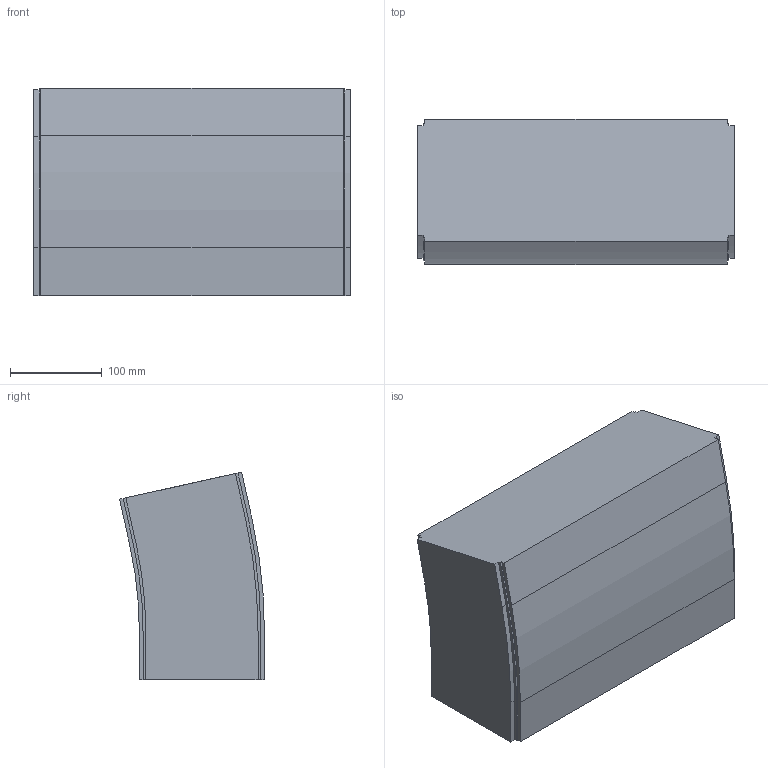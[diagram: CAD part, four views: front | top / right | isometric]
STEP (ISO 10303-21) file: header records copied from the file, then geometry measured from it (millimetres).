
FILE_DESCRIPTION (( 'STEP AP214' ), '1' );
FILE_NAME ('FS-MTC2-150-INOX verticaalbocht.350 12,5°.STEP', '2017-02-08T12:41:59', ( '' ), ( '' ), 'SwSTEP 2.0', 'SolidWorks 2016', '' );
FILE_SCHEMA (( 'AUTOMOTIVE_DESIGN' ));
Length unit declared in the file: millimetre
Products named in the file (1): FS-MTC2-150-INOX verticaalbocht.350 12,5°
Bounding box: 346 x 158.1 x 226.75 mm (x, y, z)
Volume: 10068455.6 mm3; surface area: 300651.4 mm2
Topology: 1 solids, 1 shells, 42 faces, 120 edges, 80 vertices
Faces by surface type: plane 32, cylinder 10
Entity records: 1398 total; most frequent: CARTESIAN_POINT 243, ORIENTED_EDGE 240, DIRECTION 226, EDGE_CURVE 120, LINE 100, VECTOR 100, VERTEX_POINT 80, AXIS2_PLACEMENT_3D 63
